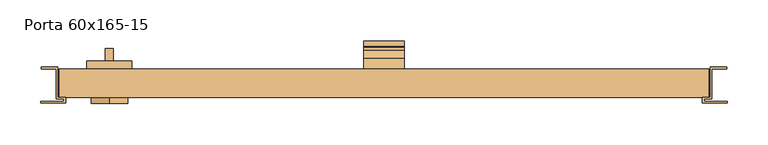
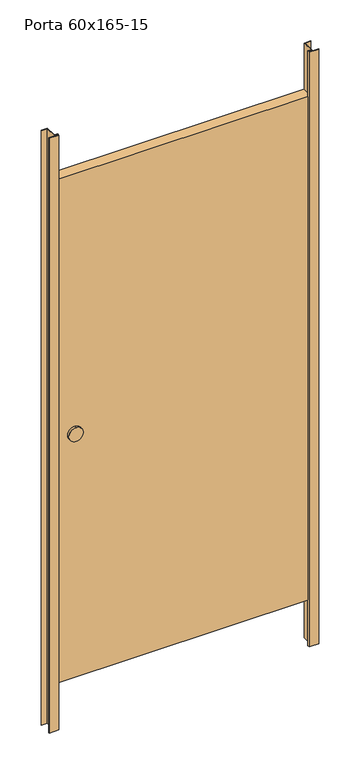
"""IFC4 building model written with IfcOpenShell, lengths in millimetres: door geometry, Porta 60x165-15 : De Abrir_1 (uma) folha 80cm."""

from ifc_helpers import new_model, si_unit, point, frame, frame_2d, origin, origin_with_axes, place, context, project, spatial, polyline, circle_curve, trimmed, segment, composite_curve, outline, extrude, source, transform, mapped, element, save


def porta_60x165_15_96589805(model_context):
    return source(origin(), model_context, "Body", "SweptSolid", [
        extrude(outline(composite_curve([segment(trimmed(circle_curve(frame_2d((950.0, -335.0)), 22.5), [point((927.5, -335.0))], [point((972.5, -335.0))], False, "CARTESIAN"), True, "CONTINUOUS"), segment(trimmed(circle_curve(frame_2d((950.0, -335.0)), 22.5), [point((972.5, -335.0))], [point((927.5, -335.0))], False, "CARTESIAN"), True, "CONTINUOUS")], self_intersect=False)), frame((0.0, -7.4328407, 0.0), z_axis=(0.0, 1.0, 0.0), x_axis=(0.0, 0.0, 1.0)), (0.0, 0.0, 1.0), 7.4328407),
        extrude(outline(polyline([(-340.0, 60.0), (-330.0, 60.0), (-330.0, 45.0), (-340.0, 45.0), (-340.0, 60.0)])), frame((0.0, 0.0, 932.5), z_axis=(0.0, 0.0, 1.0), x_axis=(1.0, 0.0, 0.0)), (0.0, 0.0, 1.0), 35.0),
        extrude(outline(polyline([(-362.5, 45.0), (-307.5, 45.0), (-307.5, 35.0), (-362.5, 35.0), (-362.5, 45.0)])), frame((0.0, 0.0, 912.5), z_axis=(0.0, 0.0, 1.0), x_axis=(1.0, 0.0, 0.0)), (0.0, 0.0, 1.0), 75.0),
        extrude(outline(composite_curve([segment(polyline([(37.0, 1503.1338874), (37.0, 1478.8625069), (35.0, 1478.8625069), (35.0, 1503.1338874)]), True, "CONTINUOUS"), segment(trimmed(circle_curve(frame_2d((41.298616, 1503.1338874)), 6.298616), [point((35.0, 1503.1338874))], [point((47.597232, 1503.1338874))], False, "CARTESIAN"), True, "CONTINUOUS"), segment(trimmed(circle_curve(frame_2d((90.1631226, 1503.1338874)), 42.5658907), [point((47.597232, 1503.1338874))], [point((57.5557586, 1475.7730602))], True, "CARTESIAN"), True, "CONTINUOUS"), segment(trimmed(circle_curve(frame_2d((61.9440153, 1479.4552447)), 5.7284622), [point((57.5557586, 1475.7730602))], [point((66.3322719, 1475.7730602))], True, "CARTESIAN"), True, "CONTINUOUS"), segment(trimmed(circle_curve(frame_2d((63.2967965, 1478.3201265)), 3.9625316), [point((66.3322719, 1475.7730602))], [point((62.5824915, 1482.2177444))], True, "CARTESIAN"), True, "CONTINUOUS"), segment(trimmed(circle_curve(frame_2d((62.4463365, 1482.9606765)), 0.7553055), [point((62.5824915, 1482.2177444))], [point((62.0901078, 1483.6267002))], False, "CARTESIAN"), True, "CONTINUOUS"), segment(trimmed(circle_curve(frame_2d((63.4109224, 1482.6952637)), 1.6162071), [point((62.0901078, 1483.6267002))], [point((63.0887072, 1484.2790259))], False, "CARTESIAN"), True, "CONTINUOUS"), segment(trimmed(circle_curve(frame_2d((63.2967965, 1478.3201265)), 5.9625316), [point((63.0887072, 1484.2790259))], [point((67.8643608, 1474.487485))], False, "CARTESIAN"), True, "CONTINUOUS"), segment(trimmed(circle_curve(frame_2d((61.9440153, 1479.4552447)), 7.7284622), [point((67.8643608, 1474.487485))], [point((56.0236697, 1474.487485))], False, "CARTESIAN"), True, "CONTINUOUS"), segment(trimmed(circle_curve(frame_2d((90.1631226, 1503.1338874)), 44.5658907), [point((56.0236697, 1474.487485))], [point((45.597232, 1503.1338874))], False, "CARTESIAN"), True, "CONTINUOUS"), segment(trimmed(circle_curve(frame_2d((41.298616, 1503.1338874)), 4.298616), [point((45.597232, 1503.1338874))], [point((37.0, 1503.1338874))], True, "CARTESIAN"), True, "CONTINUOUS")], self_intersect=False)), frame((-25.0, 0.0, 0.0), z_axis=(1.0, 0.0, 0.0), x_axis=(0.0, 1.0, 0.0)), (0.0, 0.0, 1.0), 50.0),
        extrude(outline(polyline([(396.0, 35.0), (396.0, 0.0), (-396.0, 0.0), (-396.0, 35.0), (396.0, 35.0)])), frame((0.0, 0.0, 150.0), z_axis=(0.0, 0.0, 1.0), x_axis=(1.0, 0.0, 0.0)), (0.0, 0.0, 1.0), 1650.0),
        extrude(outline(polyline([(-398.0, 0.0), (-388.0, 0.0), (-388.0, -7.0), (-418.3964539, -7.0), (-418.3964539, -5.0), (-390.3964539, -5.0), (-390.3964539, -2.0), (-400.0, -2.0), (-400.0, 35.0), (-418.0, 35.0), (-418.0, 37.0), (-398.0, 37.0), (-398.0, 0.0)])), origin_with_axes(), (0.0, 0.0, 1.0), 1950.0),
        extrude(outline(polyline([(398.0, 0.0), (398.0, 37.0), (418.0, 37.0), (418.0, 35.0), (400.0, 35.0), (400.0, -2.0), (390.3964539, -2.0), (390.3964539, -5.0), (418.3964539, -5.0), (418.3964539, -7.0), (388.0, -7.0), (388.0, 0.0), (398.0, 0.0)])), origin_with_axes(), (0.0, 0.0, 1.0), 1950.0),
    ])


if __name__ == "__main__":
    model = new_model("IFC4")
    model_context = context("Model", 3, world=origin())
    ifc_project = project(units=[si_unit("LENGTHUNIT", "METRE", prefix="MILLI")], contexts=[model_context])
    site = spatial("IfcSite", under=ifc_project)
    building = spatial("IfcBuilding", under=site)
    placement = place(None, origin())
    porta_60x165_15_shape = porta_60x165_15_96589805(model_context)
    element("IfcDoor", 1, ObjectType="Porta 60x165-15 : De Abrir_1 (uma) folha 80cm", at=placement, inside=building, context=model_context, shape_type="MappedRepresentation", body=[
        mapped(porta_60x165_15_shape, transform((0.0, 0.0, 0.0), x_axis=(1.0, 0.0, 0.0), y_axis=(0.0, 1.0, 0.0), z_axis=(0.0, 0.0, 1.0))),
    ])
    save(model, "model.ifc")
